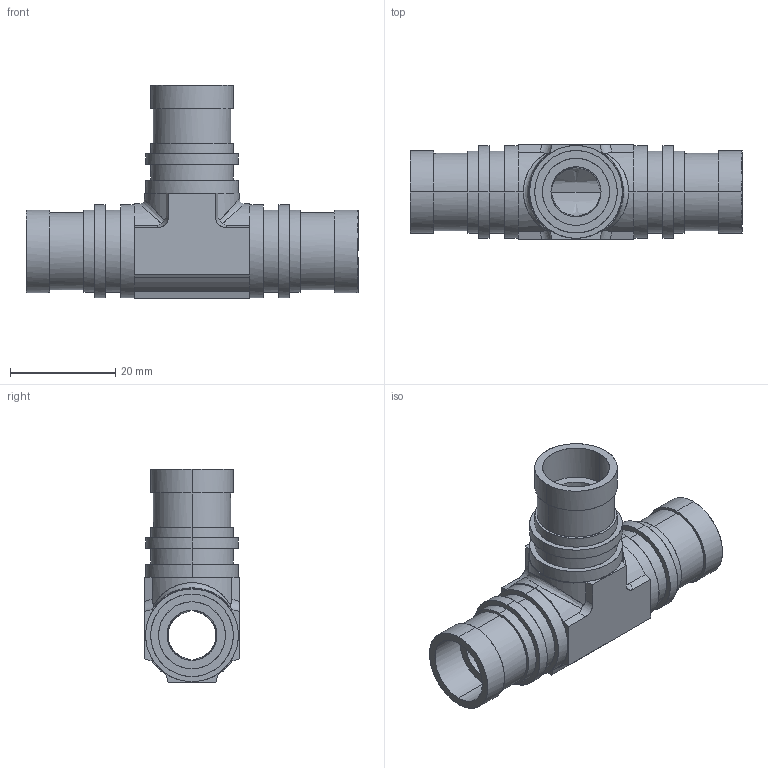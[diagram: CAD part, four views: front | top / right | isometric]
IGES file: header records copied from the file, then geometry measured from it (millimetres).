
Start section: Comment
Global section: file name: 70-12.7UT-P.igs; native system:  By Spatial Corp.; preprocessor: XPlus GENERIC/IGES 3.0; author: Author; organization: Title; date: 20100223.105913; units: inch
Bounding box: 63 x 18 x 40.5 mm (x, y, z)
Surface area: 8242.4 mm2 (no closed solid volume)
Topology: 0 solids, 0 shells, 100 faces, 468 edges, 468 vertices
Faces by surface type: bspline 100
